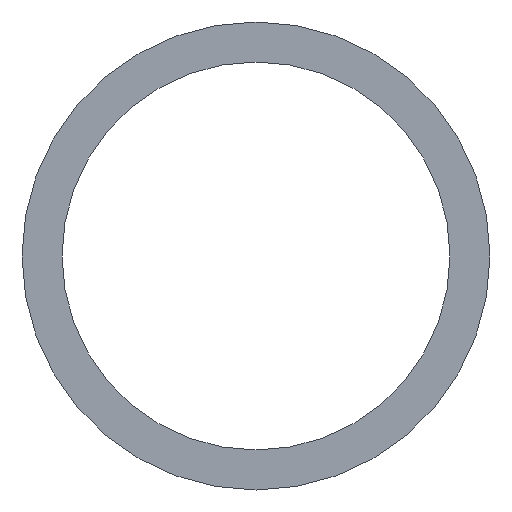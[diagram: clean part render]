
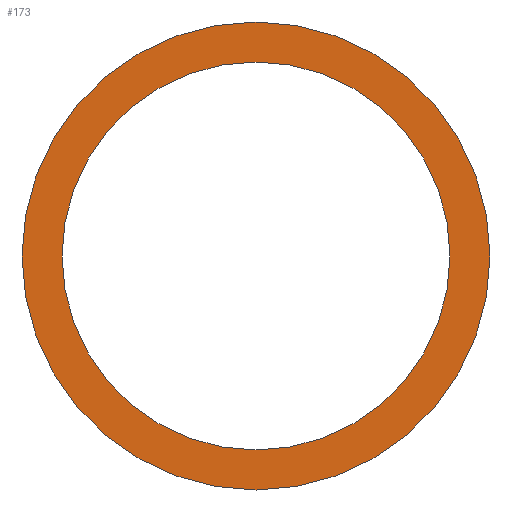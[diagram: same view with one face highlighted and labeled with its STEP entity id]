
A CAD part, left-side view. The second image highlights one B-rep face of the part: STEP entity #173.
In plain terms, the highlighted planar face has unit normal (-1, 0, 0).
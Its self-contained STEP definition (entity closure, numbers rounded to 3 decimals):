
#6 = AXIS2_PLACEMENT_3D ( 'NONE', #158, #132, #210 ) ;
#17 = AXIS2_PLACEMENT_3D ( 'NONE', #197, #106, #179 ) ;
#26 = CIRCLE ( 'NONE', #17, 13.45 ) ;
#30 = DIRECTION ( 'NONE',  ( 0., 0., 1. ) ) ;
#46 = CARTESIAN_POINT ( 'NONE',  ( 20195., -1818., 4799.3 ) ) ;
#47 = CARTESIAN_POINT ( 'NONE',  ( 20195., -1818., 4772.4 ) ) ;
#49 = DIRECTION ( 'NONE',  ( 0., 0., 1. ) ) ;
#60 = CARTESIAN_POINT ( 'NONE',  ( 20195., -1818., 4774.7 ) ) ;
#65 = ORIENTED_EDGE ( 'NONE', *, *, #196, .T. ) ;
#72 = ORIENTED_EDGE ( 'NONE', *, *, #143, .T. ) ;
#73 = CARTESIAN_POINT ( 'NONE',  ( 20195., -1818., 4785.85 ) ) ;
#84 = FACE_BOUND ( 'NONE', #148, .T. ) ;
#88 = CIRCLE ( 'NONE', #121, 11.15 ) ;
#91 = CIRCLE ( 'NONE', #6, 13.45 ) ;
#93 = CARTESIAN_POINT ( 'NONE',  ( 20195., -1818., 4785.85 ) ) ;
#102 = CARTESIAN_POINT ( 'NONE',  ( 20195., -1818., 4785.85 ) ) ;
#106 = DIRECTION ( 'NONE',  ( -1., 0., 0. ) ) ;
#115 = EDGE_CURVE ( 'NONE', #165, #152, #88, .T. ) ;
#121 = AXIS2_PLACEMENT_3D ( 'NONE', #93, #169, #124 ) ;
#123 = PLANE ( 'NONE',  #189 ) ;
#124 = DIRECTION ( 'NONE',  ( 0., 0., 1. ) ) ;
#131 = VERTEX_POINT ( 'NONE', #46 ) ;
#132 = DIRECTION ( 'NONE',  ( -1., 0., 0. ) ) ;
#135 = DIRECTION ( 'NONE',  ( -1., 0., 0. ) ) ;
#136 = CARTESIAN_POINT ( 'NONE',  ( 20195., -1818., 4797. ) ) ;
#143 = EDGE_CURVE ( 'NONE', #131, #147, #26, .T. ) ;
#145 = EDGE_LOOP ( 'NONE', ( #72, #65 ) ) ;
#147 = VERTEX_POINT ( 'NONE', #47 ) ;
#148 = EDGE_LOOP ( 'NONE', ( #191, #183 ) ) ;
#152 = VERTEX_POINT ( 'NONE', #136 ) ;
#158 = CARTESIAN_POINT ( 'NONE',  ( 20195., -1818., 4785.85 ) ) ;
#165 = VERTEX_POINT ( 'NONE', #60 ) ;
#169 = DIRECTION ( 'NONE',  ( -1., 0., 0. ) ) ;
#173 = ADVANCED_FACE ( 'NONE', ( #195, #84 ), #123, .T. ) ;
#176 = DIRECTION ( 'NONE',  ( -1., 0., 0. ) ) ;
#178 = CIRCLE ( 'NONE', #208, 11.15 ) ;
#179 = DIRECTION ( 'NONE',  ( 0., 0., 1. ) ) ;
#183 = ORIENTED_EDGE ( 'NONE', *, *, #115, .F. ) ;
#185 = EDGE_CURVE ( 'NONE', #152, #165, #178, .T. ) ;
#189 = AXIS2_PLACEMENT_3D ( 'NONE', #73, #135, #49 ) ;
#191 = ORIENTED_EDGE ( 'NONE', *, *, #185, .F. ) ;
#195 = FACE_OUTER_BOUND ( 'NONE', #145, .T. ) ;
#196 = EDGE_CURVE ( 'NONE', #147, #131, #91, .T. ) ;
#197 = CARTESIAN_POINT ( 'NONE',  ( 20195., -1818., 4785.85 ) ) ;
#208 = AXIS2_PLACEMENT_3D ( 'NONE', #102, #176, #30 ) ;
#210 = DIRECTION ( 'NONE',  ( 0., 0., 1. ) ) ;
